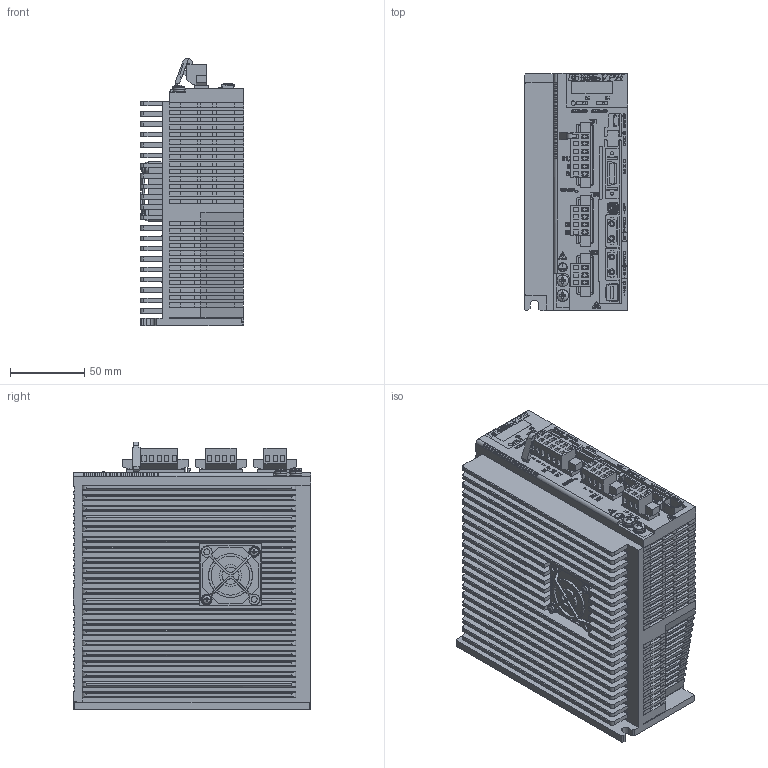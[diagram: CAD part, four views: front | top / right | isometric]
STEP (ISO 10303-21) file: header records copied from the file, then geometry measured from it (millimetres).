
FILE_DESCRIPTION (( 'STEP AP214' ), '1' );
FILE_NAME ('NCR-HB_Serise(801)#SE-73911A_A.STEP', '2021-12-06T07:30:50', ( '' ), ( '' ), 'SwSTEP 2.0', 'SolidWorks 2021', '' );
FILE_SCHEMA (( 'AUTOMOTIVE_DESIGN' ));
Length unit declared in the file: millimetre
Products named in the file (1): NCR-HB_Serise(801)#SE-73911A_A
Bounding box: 70 x 160 x 180.47 mm (x, y, z)
Volume: 1511114.6 mm3; surface area: 216666.6 mm2
Topology: 5 solids, 8 shells, 5885 faces, 16553 edges, 10973 vertices
Faces by surface type: plane 4487, bspline 751, cylinder 573, cone 50, torus 16, sphere 8
Entity records: 283742 total; most frequent: CARTESIAN_POINT 72255, ORIENTED_EDGE 33090, DIRECTION 25811, EDGE_CURVE 16545, LINE 13073, VECTOR 13073, VERTEX_POINT 10973, AXIS2_PLACEMENT_3D 6369
